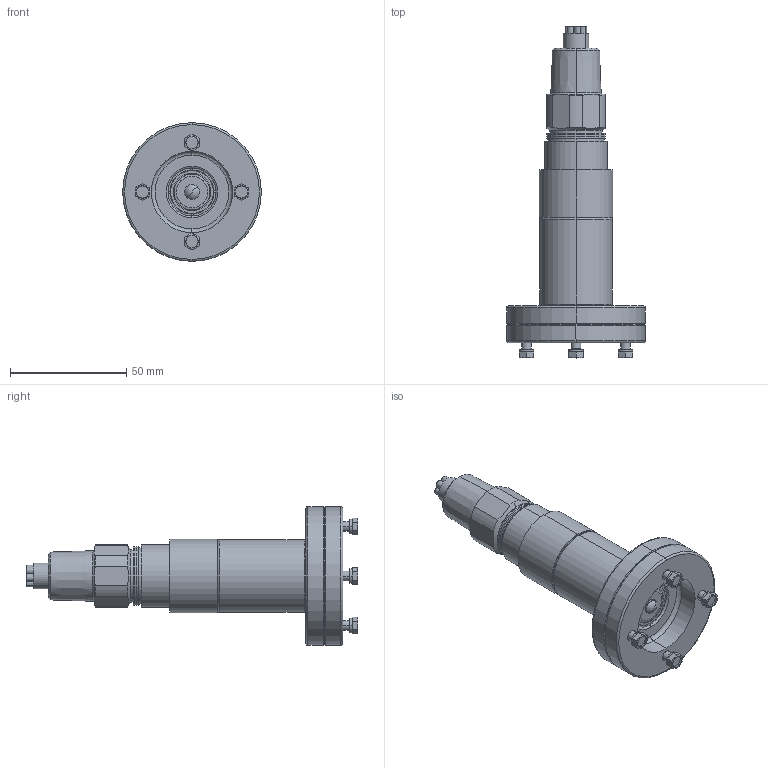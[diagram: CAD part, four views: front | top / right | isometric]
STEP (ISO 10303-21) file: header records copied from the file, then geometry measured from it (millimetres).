
FILE_DESCRIPTION (( 'STEP AP214' ), '1' );
FILE_NAME ('12SXXNR_1_4.STEP', '2025-04-07T12:13:07', ( '' ), ( '' ), 'SwSTEP 2.0', 'SolidWorks 2023', '' );
FILE_SCHEMA (( 'AUTOMOTIVE_DESIGN' ));
Length unit declared in the file: inch
Products named in the file (1): 12SXXNR_1_4
Bounding box: 59.69 x 142.9 x 59.69 mm (x, y, z)
Surface area: 28131.4 mm2 (no closed solid volume)
Topology: 0 solids, 32 shells, 212 faces, 524 edges, 351 vertices
Faces by surface type: cylinder 79, plane 66, cone 31, torus 30, bspline 4, sphere 2
Entity records: 6758 total; most frequent: CARTESIAN_POINT 1674, DIRECTION 1166, ORIENTED_EDGE 911, EDGE_CURVE 524, AXIS2_PLACEMENT_3D 497, VERTEX_POINT 351, CIRCLE 288, EDGE_LOOP 237
